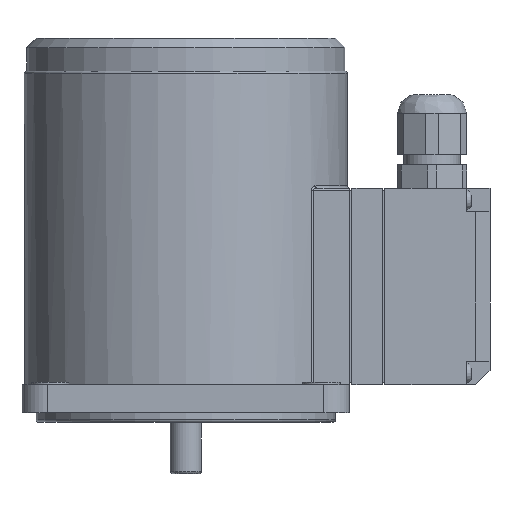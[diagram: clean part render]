
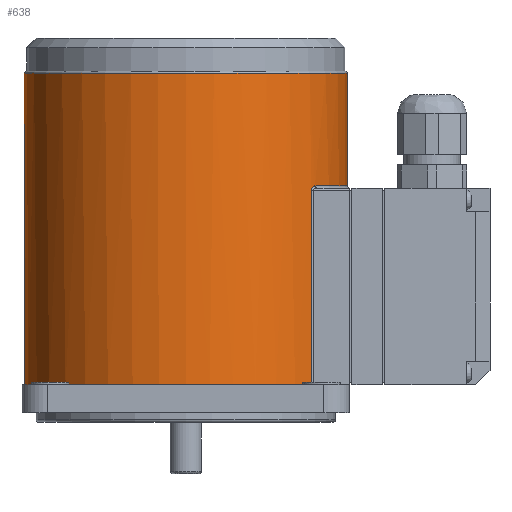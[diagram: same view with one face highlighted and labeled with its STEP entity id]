
A CAD part, left-side view. The second image highlights one B-rep face of the part: STEP entity #638.
In plain terms, the highlighted cylindrical face has radius 34.5 mm (diameter 69 mm), a full revolution.
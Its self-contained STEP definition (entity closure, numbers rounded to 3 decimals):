
#330=CARTESIAN_POINT('',(-20.7,27.6,31.5));
#331=VERTEX_POINT('',#330);
#332=CARTESIAN_POINT('',(-21.686,26.832,32.5));
#333=VERTEX_POINT('',#332);
#334=CARTESIAN_POINT('',(-20.7,27.6,31.5));
#335=CARTESIAN_POINT('',(-20.967,27.4,31.5));
#336=CARTESIAN_POINT('',(-21.338,27.111,31.65));
#337=CARTESIAN_POINT('',(-21.636,26.873,32.118));
#338=CARTESIAN_POINT('',(-21.686,26.832,32.373));
#339=CARTESIAN_POINT('',(-21.686,26.832,32.5));
#340=B_SPLINE_CURVE_WITH_KNOTS('',3,(#334,#335,#336,#337,#338,#339),.UNSPECIFIED.,.F.,.U.,(4,1,1,4),(-0.178,-0.076,-0.038,0.),.UNSPECIFIED.);
#341=EDGE_CURVE('',#331,#333,#340,.T.);
#380=CARTESIAN_POINT('',(-21.686,26.832,74.0));
#381=VERTEX_POINT('',#380);
#396=CARTESIAN_POINT('',(-21.686,26.832,32.5));
#397=DIRECTION('',(0.0,0.0,1.0));
#398=VECTOR('',#397,41.5);
#399=LINE('',#396,#398);
#400=EDGE_CURVE('',#333,#381,#399,.T.);
#481=CARTESIAN_POINT('',(21.686,26.832,32.5));
#482=VERTEX_POINT('',#481);
#490=CARTESIAN_POINT('',(20.7,27.6,31.5));
#491=VERTEX_POINT('',#490);
#492=CARTESIAN_POINT('',(21.686,26.832,32.5));
#493=CARTESIAN_POINT('',(21.686,26.832,32.331));
#494=CARTESIAN_POINT('',(21.594,26.906,31.996));
#495=CARTESIAN_POINT('',(21.234,27.193,31.602));
#496=CARTESIAN_POINT('',(20.9,27.45,31.5));
#497=CARTESIAN_POINT('',(20.7,27.6,31.5));
#498=B_SPLINE_CURVE_WITH_KNOTS('',3,(#492,#493,#494,#495,#496,#497),.UNSPECIFIED.,.F.,.U.,(4,1,1,4),(-0.178,-0.127,-0.076,0.),.UNSPECIFIED.);
#499=EDGE_CURVE('',#482,#491,#498,.T.);
#516=CARTESIAN_POINT('',(21.686,26.832,74.0));
#517=VERTEX_POINT('',#516);
#527=CARTESIAN_POINT('',(21.686,26.832,74.0));
#528=DIRECTION('',(0.0,0.0,-1.0));
#529=VECTOR('',#528,41.5);
#530=LINE('',#527,#529);
#531=EDGE_CURVE('',#517,#482,#530,.T.);
#549=CARTESIAN_POINT('',(0.0,0.0,31.5));
#550=DIRECTION('',(0.0,0.0,1.0));
#551=DIRECTION('',(0.0,1.0,0.0));
#552=AXIS2_PLACEMENT_3D('',#549,#550,#551);
#553=CIRCLE('',#552,34.5);
#554=EDGE_CURVE('',#491,#331,#553,.T.);
#608=CARTESIAN_POINT('',(0.0,0.0,0.0));
#609=DIRECTION('',(0.0,0.0,1.0));
#610=DIRECTION('',(-1.0,0.0,0.0));
#611=AXIS2_PLACEMENT_3D('',#608,#609,#610);
#612=CYLINDRICAL_SURFACE('',#611,34.5);
#613=CARTESIAN_POINT('',(-34.5,0.,7.5));
#614=VERTEX_POINT('',#613);
#615=CARTESIAN_POINT('',(0.0,0.0,7.5));
#616=DIRECTION('',(0.0,0.0,-1.0));
#617=DIRECTION('',(1.0,0.0,0.0));
#618=AXIS2_PLACEMENT_3D('',#615,#616,#617);
#619=CIRCLE('',#618,34.5);
#620=EDGE_CURVE('',#614,#614,#619,.T.);
#621=ORIENTED_EDGE('',*,*,#620,.F.);
#622=EDGE_LOOP('',(#621));
#623=FACE_OUTER_BOUND('',#622,.T.);
#624=ORIENTED_EDGE('',*,*,#400,.F.);
#625=ORIENTED_EDGE('',*,*,#341,.F.);
#626=ORIENTED_EDGE('',*,*,#554,.F.);
#627=ORIENTED_EDGE('',*,*,#499,.F.);
#628=ORIENTED_EDGE('',*,*,#531,.F.);
#629=CARTESIAN_POINT('',(0.0,0.0,74.0));
#630=DIRECTION('',(0.0,0.0,-1.0));
#631=DIRECTION('',(-1.0,0.0,0.0));
#632=AXIS2_PLACEMENT_3D('',#629,#630,#631);
#633=CIRCLE('',#632,34.5);
#634=EDGE_CURVE('',#517,#381,#633,.T.);
#635=ORIENTED_EDGE('',*,*,#634,.T.);
#636=EDGE_LOOP('',(#624,#625,#626,#627,#628,#635));
#637=FACE_BOUND('',#636,.T.);
#638=ADVANCED_FACE('',(#623,#637),#612,.T.);
